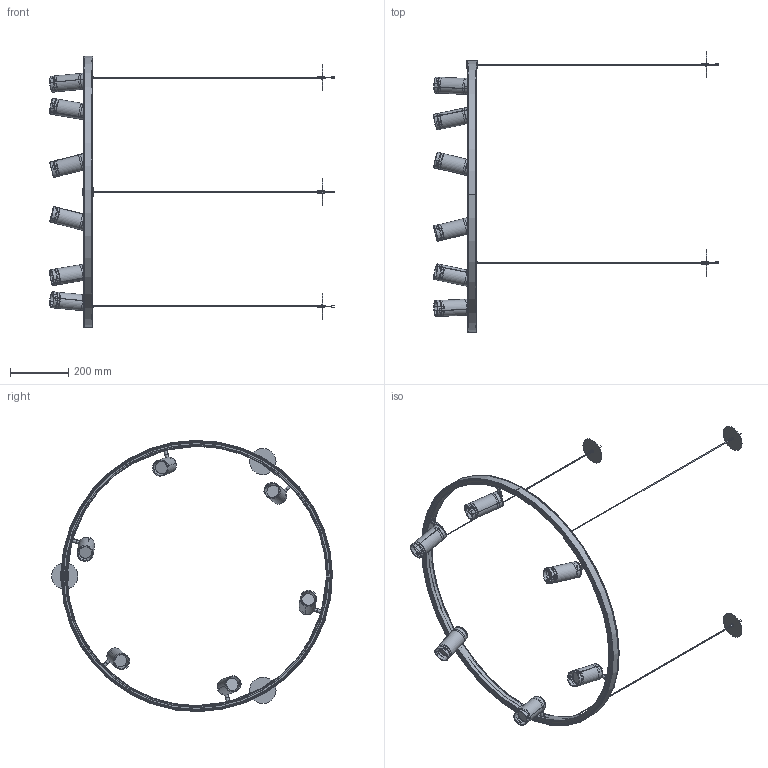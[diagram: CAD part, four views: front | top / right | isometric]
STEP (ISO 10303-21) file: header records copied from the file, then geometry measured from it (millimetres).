
FILE_DESCRIPTION (( 'STEP AP214' ), '1' );
FILE_NAME ('Space55_Ø900.STEP', '2024-05-30T10:58:16', ( '' ), ( '' ), 'SwSTEP 2.0', 'SolidWorks 2024', '' );
FILE_SCHEMA (( 'AUTOMOTIVE_DESIGN' ));
Length unit declared in the file: millimetre
Products named in the file (1): Space55_Ø900
Bounding box: 973.52 x 961.18 x 928.25 mm (x, y, z)
Volume: 1102053.6 mm3; surface area: 1126663.8 mm2
Topology: 22 solids, 24 shells, 3815 faces, 9635 edges, 5835 vertices
Faces by surface type: plane 1338, cylinder 1139, cone 663, torus 287, bspline 280, sphere 108
Entity records: 139059 total; most frequent: CARTESIAN_POINT 48754, ORIENTED_EDGE 19174, DIRECTION 18869, EDGE_CURVE 9587, AXIS2_PLACEMENT_3D 7420, VERTEX_POINT 5835, EDGE_LOOP 4264, LINE 4029
